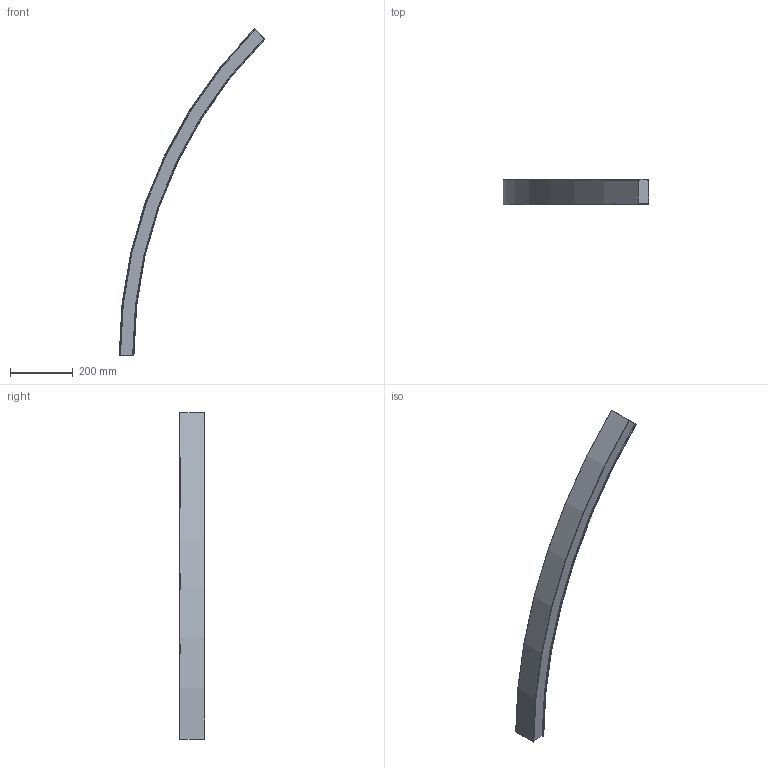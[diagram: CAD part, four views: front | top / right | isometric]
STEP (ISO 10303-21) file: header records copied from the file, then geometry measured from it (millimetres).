
FILE_DESCRIPTION (( 'STEP AP203' ), '1' );
FILE_NAME ('mLight_Swerve 47_R1450 45deg.STEP', '2020-03-31T23:27:06', ( '' ), ( '' ), 'SwSTEP 2.0', 'SolidWorks 2017', '' );
FILE_SCHEMA (( 'CONFIG_CONTROL_DESIGN' ));
Length unit declared in the file: millimetre
Products named in the file (1): mLight_Swerve 47_R1450 45deg
Bounding box: 464.81 x 80.63 x 1041.92 mm (x, y, z)
Volume: 4105819 mm3; surface area: 321636.8 mm2
Topology: 1 solids, 1 shells, 46 faces, 132 edges, 88 vertices
Faces by surface type: torus 24, plane 10, cylinder 6, cone 6
Entity records: 1645 total; most frequent: DIRECTION 318, CARTESIAN_POINT 267, ORIENTED_EDGE 264, AXIS2_PLACEMENT_3D 139, EDGE_CURVE 132, CIRCLE 92, VERTEX_POINT 88, FACE_OUTER_BOUND 46
